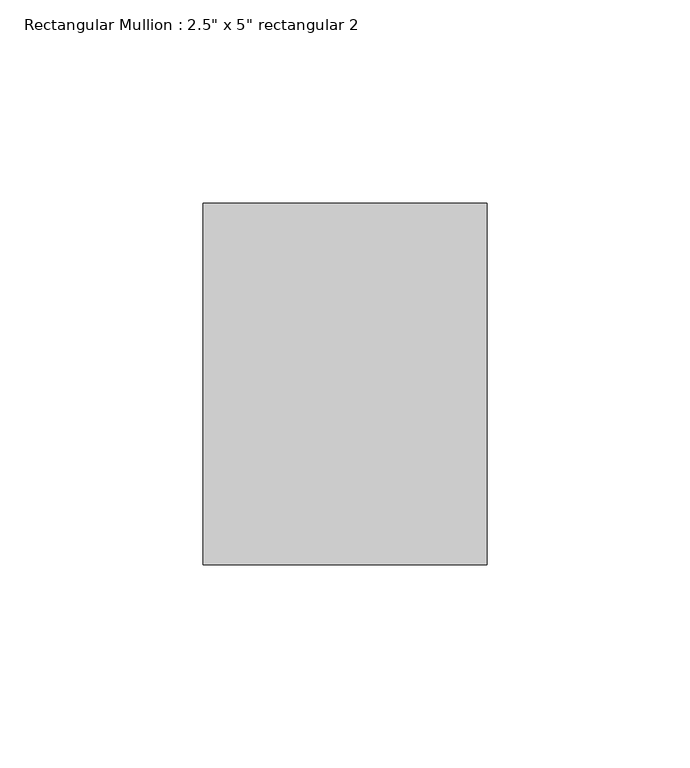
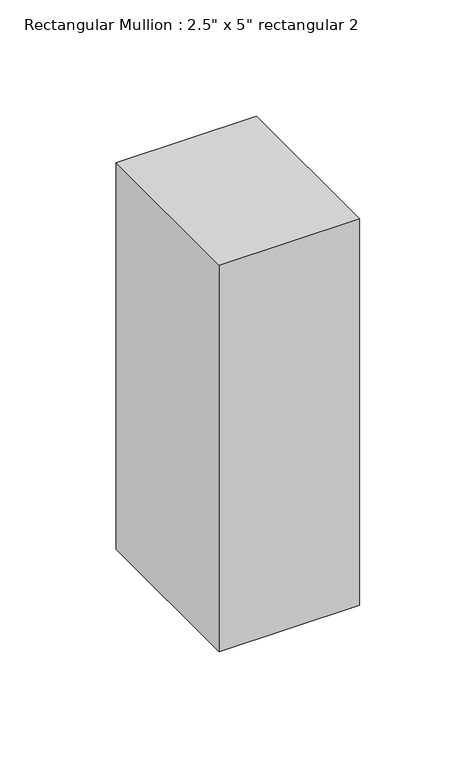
"""IFC4 building model written with IfcOpenShell, lengths in millimetres: member geometry."""

from ifc_helpers import new_model, si_unit, frame, origin, place, context, project, spatial, polyline, outline, extrude, source, transform, mapped, element, save


def member_b2c305fd(model_context):
    return source(origin(), model_context, "Body", "SweptSolid", [
        extrude(outline(polyline([(38.1, 44.45), (38.1, -44.45), (-31.75, -44.45), (-31.75, 44.45), (38.1, 44.45)])), frame((0.0, 0.0, -203.2), z_axis=(0.0, 0.0, 1.0), x_axis=(1.0, 0.0, 0.0)), (0.0, 0.0, 1.0), 203.2),
    ])


if __name__ == "__main__":
    model = new_model("IFC4")
    model_context = context("Model", 3, world=origin())
    ifc_project = project(units=[si_unit("LENGTHUNIT", "METRE", prefix="MILLI")], contexts=[model_context])
    site = spatial("IfcSite", under=ifc_project)
    building = spatial("IfcBuilding", under=site)
    placement = place(None, origin())
    member_shape = member_b2c305fd(model_context)
    element("IfcMember", 1, ObjectType="Rectangular Mullion : 2.5\" x 5\" rectangular 2", at=placement, inside=building, context=model_context, shape_type="MappedRepresentation", body=[
        mapped(member_shape, transform((0.0, 0.0, 0.0), x_axis=(1.0, 0.0, 0.0), y_axis=(0.0, 1.0, 0.0), z_axis=(0.0, 0.0, 1.0))),
    ])
    save(model, "model.ifc")
